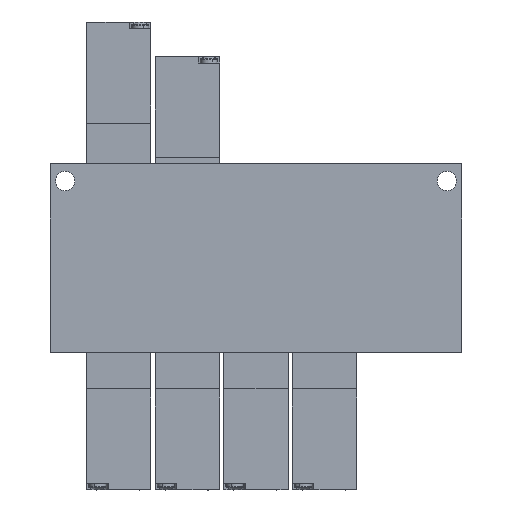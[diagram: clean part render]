
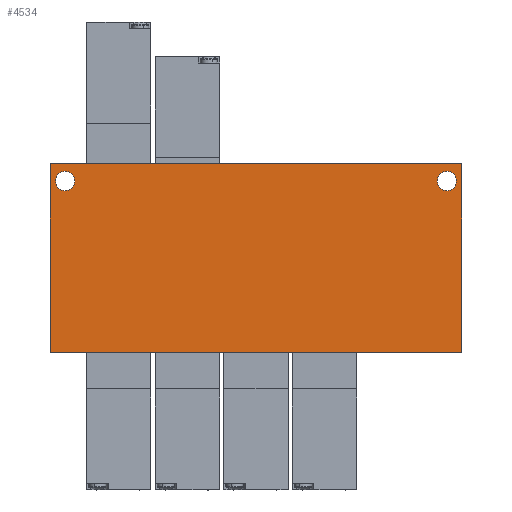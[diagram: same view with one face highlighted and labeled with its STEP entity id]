
A CAD part, front view. The second image highlights one B-rep face of the part: STEP entity #4534.
In plain terms, the highlighted planar face has unit normal (0, -1, 0).
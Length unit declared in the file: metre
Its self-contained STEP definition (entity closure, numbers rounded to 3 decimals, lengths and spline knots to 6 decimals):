
#197 = FACE_BOUND ( 'NONE', #12175, .T. ) ;
#221 = EDGE_CURVE ( 'NONE', #6097, #15066, #7356, .T. ) ;
#243 = EDGE_CURVE ( 'NONE', #749, #3903, #13305, .T. ) ;
#446 = AXIS2_PLACEMENT_3D ( 'NONE', #5700, #5748, #5739 ) ;
#710 = CARTESIAN_POINT ( 'NONE',  ( -0.048, -0.01525, 0.0035 ) ) ;
#749 = VERTEX_POINT ( 'NONE', #11340 ) ;
#1390 = CARTESIAN_POINT ( 'NONE',  ( 0.048, -0.01525, 0.0035 ) ) ;
#1409 = CARTESIAN_POINT ( 'NONE',  ( -0.048, -0.01525, 0.0255 ) ) ;
#1441 = DIRECTION ( 'NONE',  ( 0., 0., -1. ) ) ;
#1767 = PLANE ( 'NONE',  #7485 ) ;
#1967 = CARTESIAN_POINT ( 'NONE',  ( -0.048, -0.01525, 0.0255 ) ) ;
#2021 = DIRECTION ( 'NONE',  ( 0., -1., 0. ) ) ;
#2077 = DIRECTION ( 'NONE',  ( 0., 0., -1. ) ) ;
#2162 = VECTOR ( 'NONE', #11374, 1. ) ;
#2776 = EDGE_LOOP ( 'NONE', ( #12067, #6030 ) ) ;
#2920 = CARTESIAN_POINT ( 'NONE',  ( 0., -0.01525, 0.0255 ) ) ;
#2978 = EDGE_LOOP ( 'NONE', ( #7514, #8417, #12243, #5652 ) ) ;
#3090 = CIRCLE ( 'NONE', #14187, 0.00225 ) ;
#3825 = EDGE_CURVE ( 'NONE', #3903, #749, #4555, .T. ) ;
#3903 = VERTEX_POINT ( 'NONE', #13658 ) ;
#4106 = VECTOR ( 'NONE', #5403, 1. ) ;
#4534 = ADVANCED_FACE ( 'NONE', ( #12632, #197, #6268 ), #1767, .T. ) ;
#4555 = CIRCLE ( 'NONE', #5132, 0.00225 ) ;
#4636 = ORIENTED_EDGE ( 'NONE', *, *, #243, .T. ) ;
#4715 = CARTESIAN_POINT ( 'NONE',  ( -0.0445, -0.01525, 0.01925 ) ) ;
#4775 = CARTESIAN_POINT ( 'NONE',  ( 0.048, -0.01525, 0.0255 ) ) ;
#4859 = VECTOR ( 'NONE', #12810, 1. ) ;
#5122 = DIRECTION ( 'NONE',  ( 0., 1., 0. ) ) ;
#5132 = AXIS2_PLACEMENT_3D ( 'NONE', #12641, #12673, #12696 ) ;
#5275 = CARTESIAN_POINT ( 'NONE',  ( 0., -0.01525, -0.0185 ) ) ;
#5403 = DIRECTION ( 'NONE',  ( -1., 0., 0. ) ) ;
#5652 = ORIENTED_EDGE ( 'NONE', *, *, #8230, .T. ) ;
#5700 = CARTESIAN_POINT ( 'NONE',  ( 0.0445, -0.01525, 0.0215 ) ) ;
#5739 = DIRECTION ( 'NONE',  ( 0., 0., 1. ) ) ;
#5748 = DIRECTION ( 'NONE',  ( 0., 1., 0. ) ) ;
#6030 = ORIENTED_EDGE ( 'NONE', *, *, #12590, .T. ) ;
#6097 = VERTEX_POINT ( 'NONE', #6229 ) ;
#6229 = CARTESIAN_POINT ( 'NONE',  ( 0.048, -0.01525, -0.0185 ) ) ;
#6268 = FACE_OUTER_BOUND ( 'NONE', #2978, .T. ) ;
#6341 = ORIENTED_EDGE ( 'NONE', *, *, #3825, .T. ) ;
#6460 = VERTEX_POINT ( 'NONE', #12961 ) ;
#6657 = CARTESIAN_POINT ( 'NONE',  ( -0.0445, -0.01525, 0.0215 ) ) ;
#7335 = EDGE_CURVE ( 'NONE', #14980, #6097, #13105, .T. ) ;
#7356 = LINE ( 'NONE', #5275, #4106 ) ;
#7403 = CARTESIAN_POINT ( 'NONE',  ( -0.048, -0.01525, -0.0185 ) ) ;
#7485 = AXIS2_PLACEMENT_3D ( 'NONE', #1967, #2021, #2077 ) ;
#7514 = ORIENTED_EDGE ( 'NONE', *, *, #12078, .T. ) ;
#7855 = DIRECTION ( 'NONE',  ( 0., 0., 1. ) ) ;
#7876 = LINE ( 'NONE', #2920, #2162 ) ;
#8074 = CIRCLE ( 'NONE', #14120, 0.00225 ) ;
#8087 = LINE ( 'NONE', #710, #4859 ) ;
#8230 = EDGE_CURVE ( 'NONE', #14980, #9394, #7876, .T. ) ;
#8417 = ORIENTED_EDGE ( 'NONE', *, *, #221, .F. ) ;
#8451 = VECTOR ( 'NONE', #1441, 1. ) ;
#9394 = VERTEX_POINT ( 'NONE', #1409 ) ;
#9594 = EDGE_CURVE ( 'NONE', #6460, #12292, #3090, .T. ) ;
#11340 = CARTESIAN_POINT ( 'NONE',  ( 0.0445, -0.01525, 0.01925 ) ) ;
#11374 = DIRECTION ( 'NONE',  ( -1., 0., 0. ) ) ;
#12067 = ORIENTED_EDGE ( 'NONE', *, *, #9594, .T. ) ;
#12078 = EDGE_CURVE ( 'NONE', #9394, #15066, #8087, .T. ) ;
#12175 = EDGE_LOOP ( 'NONE', ( #6341, #4636 ) ) ;
#12243 = ORIENTED_EDGE ( 'NONE', *, *, #7335, .F. ) ;
#12292 = VERTEX_POINT ( 'NONE', #4715 ) ;
#12324 = CARTESIAN_POINT ( 'NONE',  ( -0.0445, -0.01525, 0.0215 ) ) ;
#12590 = EDGE_CURVE ( 'NONE', #12292, #6460, #8074, .T. ) ;
#12632 = FACE_BOUND ( 'NONE', #2776, .T. ) ;
#12641 = CARTESIAN_POINT ( 'NONE',  ( 0.0445, -0.01525, 0.0215 ) ) ;
#12673 = DIRECTION ( 'NONE',  ( 0., 1., 0. ) ) ;
#12696 = DIRECTION ( 'NONE',  ( 0., 0., 1. ) ) ;
#12810 = DIRECTION ( 'NONE',  ( 0., 0., -1. ) ) ;
#12961 = CARTESIAN_POINT ( 'NONE',  ( -0.0445, -0.01525, 0.02375 ) ) ;
#13105 = LINE ( 'NONE', #1390, #8451 ) ;
#13305 = CIRCLE ( 'NONE', #446, 0.00225 ) ;
#13491 = DIRECTION ( 'NONE',  ( 0., 0., 1. ) ) ;
#13658 = CARTESIAN_POINT ( 'NONE',  ( 0.0445, -0.01525, 0.02375 ) ) ;
#14120 = AXIS2_PLACEMENT_3D ( 'NONE', #12324, #5122, #13491 ) ;
#14187 = AXIS2_PLACEMENT_3D ( 'NONE', #6657, #15043, #7855 ) ;
#14980 = VERTEX_POINT ( 'NONE', #4775 ) ;
#15043 = DIRECTION ( 'NONE',  ( 0., 1., 0. ) ) ;
#15066 = VERTEX_POINT ( 'NONE', #7403 ) ;
